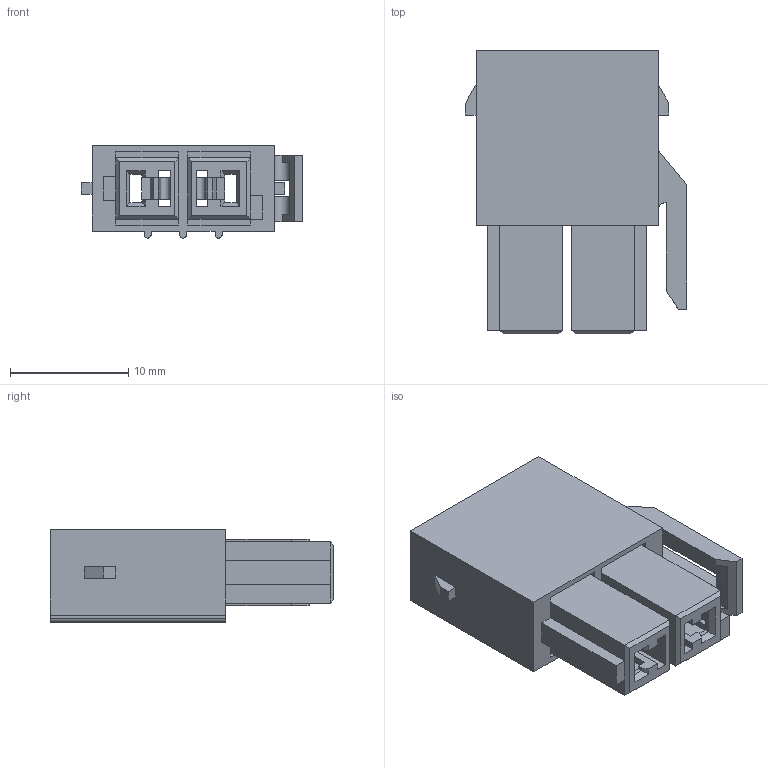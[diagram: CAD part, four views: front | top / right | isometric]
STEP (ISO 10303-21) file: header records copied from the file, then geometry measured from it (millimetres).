
FILE_DESCRIPTION((''),'2;1');
FILE_NAME('351810220','2014-11-18T',('me'),(''),'PRO/ENGINEER BY PARAMETRIC TECHNOLOGY CORPORATION, 2011490','PRO/ENGINEER BY PARAMETRIC TECHNOLOGY CORPORATION, 2011490','');
FILE_SCHEMA(('CONFIG_CONTROL_DESIGN'));
Length unit declared in the file: millimetre
Products named in the file (1): 351810220
Bounding box: 18.7 x 24 x 7.8 mm (x, y, z)
Volume: 1196.6 mm3; surface area: 2748.2 mm2
Topology: 1 solids, 1 shells, 214 faces, 622 edges, 415 vertices
Faces by surface type: plane 199, cylinder 15
Entity records: 6902 total; most frequent: CARTESIAN_POINT 1217, ORIENTED_EDGE 1174, DIRECTION 1084, VECTOR 590, LINE 590, EDGE_CURVE 587, VERTEX_POINT 380, AXIS2_PLACEMENT_3D 247
